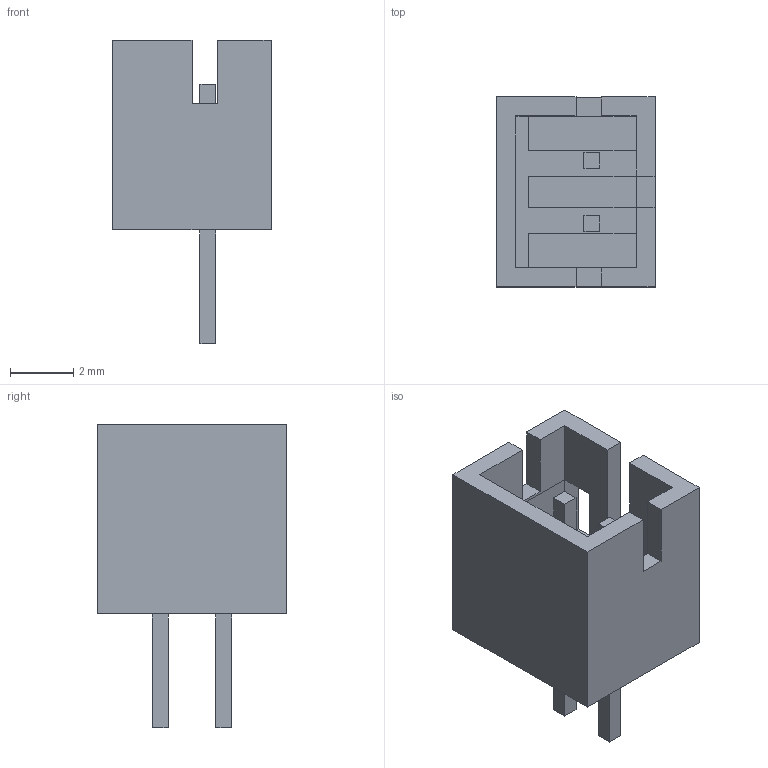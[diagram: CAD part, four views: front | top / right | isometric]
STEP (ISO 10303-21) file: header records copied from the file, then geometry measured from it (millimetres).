
FILE_DESCRIPTION(('FreeCAD Model'),'2;1');
FILE_NAME('Open CASCADE Shape Model','2023-11-30T19:31:32',('Author'),( ''),'Open CASCADE STEP processor 7.6','FreeCAD','Unknown');
FILE_SCHEMA(('AUTOMOTIVE_DESIGN { 1 0 10303 214 1 1 1 1 }'));
Length unit declared in the file: millimetre
Products named in the file (1): Group001
Bounding box: 5 x 6 x 9.6 mm (x, y, z)
Volume: 97.4 mm3; surface area: 285.2 mm2
Topology: 1 solids, 1 shells, 56 faces, 146 edges, 94 vertices
Faces by surface type: plane 56
Entity records: 3876 total; most frequent: CARTESIAN_POINT 705, DIRECTION 436, LINE 322, VECTOR 322, ORIENTED_EDGE 292, PCURVE 292, DEFINITIONAL_REPRESENTATION 292, EDGE_CURVE 146
